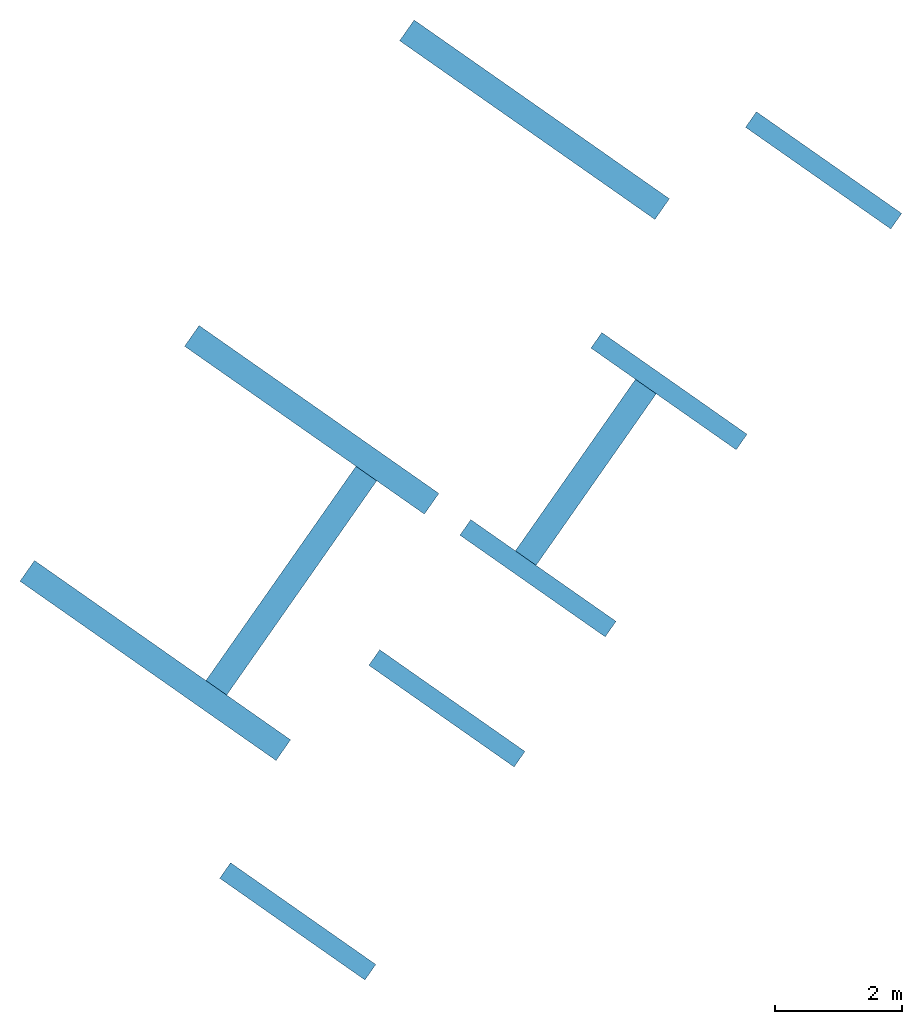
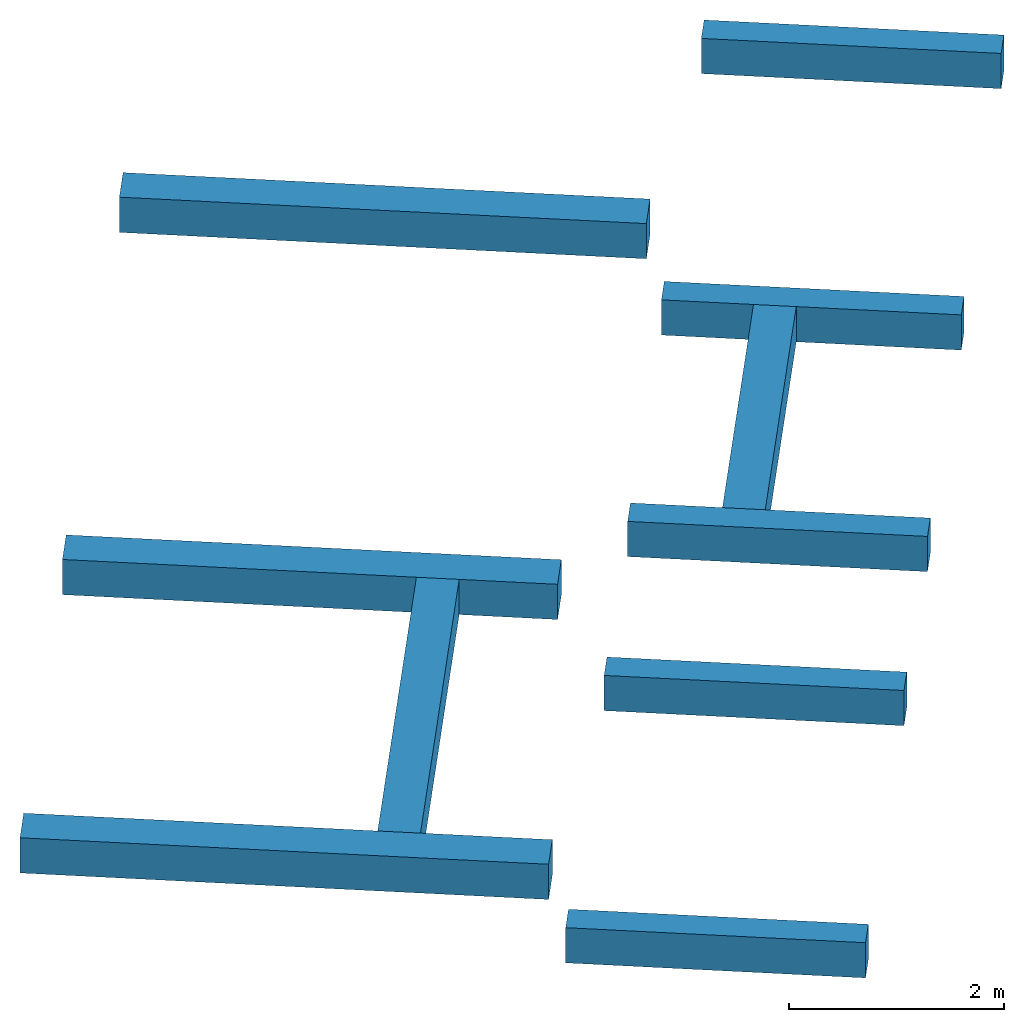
# One storey: 10 beams.
"""IFC2X3 building model written with IfcOpenShell, lengths in metres."""

from ifc_helpers import new_model, entity, si_unit, converted_unit, derived_unit, direction, frame, frame_2d, origin, place, context, subcontext, project, spatial, rectangle, extrude, type_object, element, save


model = new_model("IFC2X3")

# Units and contexts
model_context = context("Model", 3, precision=1e-05, world=origin(), true_north=direction((6.123031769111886e-17, 1.0)))
body_context = subcontext(model_context, "Body", "Model", "MODEL_VIEW")
ifc_project = project(units=[si_unit("LENGTHUNIT", "METRE"), si_unit("AREAUNIT", "SQUARE_METRE"), si_unit("VOLUMEUNIT", "CUBIC_METRE"), converted_unit("PLANEANGLEUNIT", "DEGREE", entity("IfcPlaneAngleMeasure", 0.017453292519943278), si_unit("PLANEANGLEUNIT", "RADIAN"), dimensions=[0, 0, 0, 0, 0, 0, 0]), si_unit("MASSUNIT", "GRAM", prefix="KILO"), derived_unit("MASSDENSITYUNIT", [(si_unit("MASSUNIT", "GRAM", prefix="KILO"), 1), (si_unit("LENGTHUNIT", "METRE"), -3)]), derived_unit("IONCONCENTRATIONUNIT", [(si_unit("MASSUNIT", "GRAM", prefix="KILO"), 1), (si_unit("LENGTHUNIT", "METRE"), -3)]), derived_unit("MOMENTOFINERTIAUNIT", [(si_unit("LENGTHUNIT", "METRE"), 4)]), si_unit("TIMEUNIT", "SECOND"), si_unit("FREQUENCYUNIT", "HERTZ"), si_unit("THERMODYNAMICTEMPERATUREUNIT", "DEGREE_CELSIUS"), derived_unit("THERMALTRANSMITTANCEUNIT", [(si_unit("MASSUNIT", "GRAM", prefix="KILO"), 1), (si_unit("THERMODYNAMICTEMPERATUREUNIT", "KELVIN"), -1), (si_unit("TIMEUNIT", "SECOND"), -3)]), derived_unit("THERMALCONDUCTANCEUNIT", [(si_unit("MASSUNIT", "GRAM", prefix="KILO"), 1), (si_unit("THERMODYNAMICTEMPERATUREUNIT", "KELVIN"), -1), (si_unit("TIMEUNIT", "SECOND"), -3), (si_unit("LENGTHUNIT", "METRE"), 1)]), derived_unit("VOLUMETRICFLOWRATEUNIT", [(si_unit("LENGTHUNIT", "METRE", prefix="DECI"), 3), (si_unit("TIMEUNIT", "SECOND"), -1)]), derived_unit("MASSFLOWRATEUNIT", [(si_unit("MASSUNIT", "GRAM", prefix="KILO"), 1), (si_unit("TIMEUNIT", "SECOND"), -1)]), derived_unit("ROTATIONALFREQUENCYUNIT", [(si_unit("TIMEUNIT", "SECOND"), -1)]), si_unit("ELECTRICCURRENTUNIT", "AMPERE"), si_unit("ELECTRICVOLTAGEUNIT", "VOLT"), si_unit("POWERUNIT", "WATT"), si_unit("FORCEUNIT", "NEWTON", prefix="KILO"), si_unit("ILLUMINANCEUNIT", "LUX"), si_unit("LUMINOUSFLUXUNIT", "LUMEN"), si_unit("LUMINOUSINTENSITYUNIT", "CANDELA"), si_unit("ENERGYUNIT", "JOULE"), derived_unit("USERDEFINED", [(si_unit("MASSUNIT", "GRAM", prefix="KILO"), -1), (si_unit("LENGTHUNIT", "METRE"), -2), (si_unit("TIMEUNIT", "SECOND"), 3), (si_unit("LUMINOUSFLUXUNIT", "LUMEN"), 1)]), derived_unit("USERDEFINED", [(si_unit("MASSUNIT", "GRAM", prefix="KILO"), 1), (si_unit("TIMEUNIT", "SECOND"), -3), (si_unit("LENGTHUNIT", "METRE"), 3), (si_unit("ELECTRICCURRENTUNIT", "AMPERE"), -2)]), derived_unit("SOUNDPOWERUNIT", [(si_unit("MASSUNIT", "GRAM", prefix="KILO"), 1), (si_unit("TIMEUNIT", "SECOND"), -3), (si_unit("LENGTHUNIT", "METRE"), 2)]), derived_unit("SOUNDPRESSUREUNIT", [(si_unit("MASSUNIT", "GRAM", prefix="KILO"), 1), (si_unit("LENGTHUNIT", "METRE"), -1), (si_unit("TIMEUNIT", "SECOND"), -2)]), derived_unit("LINEARVELOCITYUNIT", [(si_unit("LENGTHUNIT", "METRE"), 1), (si_unit("TIMEUNIT", "SECOND"), -1)]), si_unit("PRESSUREUNIT", "PASCAL"), derived_unit("USERDEFINED", [(si_unit("MASSUNIT", "GRAM", prefix="KILO"), 1), (si_unit("LENGTHUNIT", "METRE"), -2), (si_unit("TIMEUNIT", "SECOND"), -2)]), derived_unit("LINEARFORCEUNIT", [(si_unit("MASSUNIT", "GRAM", prefix="KILO"), 1), (si_unit("TIMEUNIT", "SECOND"), -2)]), derived_unit("PLANARFORCEUNIT", [(si_unit("MASSUNIT", "GRAM", prefix="KILO"), 1), (si_unit("LENGTHUNIT", "METRE"), -1), (si_unit("TIMEUNIT", "SECOND"), -2)]), derived_unit("SPECIFICHEATCAPACITYUNIT", [(si_unit("THERMODYNAMICTEMPERATUREUNIT", "KELVIN"), -1), (si_unit("LENGTHUNIT", "METRE"), 2), (si_unit("TIMEUNIT", "SECOND"), -2)]), derived_unit("HEATFLUXDENSITYUNIT", [(si_unit("MASSUNIT", "GRAM", prefix="KILO"), 1), (si_unit("TIMEUNIT", "SECOND"), -3)]), derived_unit("HEATINGVALUEUNIT", [(si_unit("LENGTHUNIT", "METRE"), 2), (si_unit("TIMEUNIT", "SECOND"), -2)]), derived_unit("VAPORPERMEABILITYUNIT", [(si_unit("LENGTHUNIT", "METRE"), -1), (si_unit("TIMEUNIT", "SECOND"), 1)]), derived_unit("DYNAMICVISCOSITYUNIT", [(si_unit("MASSUNIT", "GRAM", prefix="KILO"), 1), (si_unit("TIMEUNIT", "SECOND"), -1), (si_unit("LENGTHUNIT", "METRE"), -1)]), derived_unit("THERMALEXPANSIONCOEFFICIENTUNIT", [(si_unit("THERMODYNAMICTEMPERATUREUNIT", "KELVIN"), -1)]), derived_unit("MODULUSOFELASTICITYUNIT", [(si_unit("MASSUNIT", "GRAM", prefix="KILO"), 1), (si_unit("LENGTHUNIT", "METRE"), -1), (si_unit("TIMEUNIT", "SECOND"), -2)]), derived_unit("ISOTHERMALMOISTURECAPACITYUNIT", [(si_unit("MASSUNIT", "GRAM", prefix="KILO"), -1), (si_unit("LENGTHUNIT", "METRE"), 3)]), derived_unit("MOISTUREDIFFUSIVITYUNIT", [(si_unit("TIMEUNIT", "SECOND"), -1), (si_unit("LENGTHUNIT", "METRE"), 2)]), derived_unit("MASSPERLENGTHUNIT", [(si_unit("MASSUNIT", "GRAM", prefix="KILO"), 1), (si_unit("LENGTHUNIT", "METRE"), -1)]), derived_unit("THERMALRESISTANCEUNIT", [(si_unit("MASSUNIT", "GRAM", prefix="KILO"), -1), (si_unit("TIMEUNIT", "SECOND"), 3), (si_unit("THERMODYNAMICTEMPERATUREUNIT", "KELVIN"), 1)]), derived_unit("ACCELERATIONUNIT", [(si_unit("LENGTHUNIT", "METRE"), 1), (si_unit("TIMEUNIT", "SECOND"), -2)]), derived_unit("ANGULARVELOCITYUNIT", [(si_unit("TIMEUNIT", "SECOND"), -1), (si_unit("PLANEANGLEUNIT", "RADIAN"), 1)]), derived_unit("LINEARSTIFFNESSUNIT", [(si_unit("MASSUNIT", "GRAM", prefix="KILO"), 1), (si_unit("TIMEUNIT", "SECOND"), -2)]), derived_unit("WARPINGCONSTANTUNIT", [(si_unit("LENGTHUNIT", "METRE"), 6)]), derived_unit("LINEARMOMENTUNIT", [(si_unit("MASSUNIT", "GRAM", prefix="KILO"), 1), (si_unit("LENGTHUNIT", "METRE"), 1), (si_unit("TIMEUNIT", "SECOND"), -2)]), derived_unit("TORQUEUNIT", [(si_unit("MASSUNIT", "GRAM", prefix="KILO"), 1), (si_unit("LENGTHUNIT", "METRE"), 2), (si_unit("TIMEUNIT", "SECOND"), -2)])], contexts=[model_context])

# Site, building, storey
site_placement = place(None, origin())
site = spatial("IfcSite", under=ifc_project, at=site_placement, Name="Default", CompositionType="ELEMENT")
building_placement = place(site_placement, origin())
building = spatial("IfcBuilding", under=site, at=building_placement, CompositionType="ELEMENT")
storey_placement = place(building_placement, frame((0.0, 0.0, 95.94)))
storey = spatial("IfcBuildingStorey", under=building, at=storey_placement, Name="PB_", CompositionType="ELEMENT", Elevation=95.94)

# Beams
beam_type_1 = type_object("IfcBeamType", Name="Hormigón-Viga rectangular:300 x 400mm", PredefinedType="NOTDEFINED")
beam_1_placement = place(storey_placement, frame((6.508788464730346, -5.809673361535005, 0.5800000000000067), z_axis=(0.0, 0.0, 1.0), x_axis=(-0.8191520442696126, 0.5735764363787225, 0.0)))
element("IfcBeam", 1, at=beam_1_placement, inside=storey, type_object=beam_type_1, Name="Hormigón-Viga rectangular:300 x 400mm", ObjectType="Hormigón-Viga rectangular:300 x 400mm", context=body_context, shape_type="SweptSolid", body=[
    extrude(rectangle(XDim=0.3999999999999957, YDim=0.30000000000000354, at=frame_2d((8.659739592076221e-15, 7.494005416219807e-16), x_axis=(1.0, 0.0))), frame((-0.012549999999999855, 0.0, -0.1999999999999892), z_axis=(1.0, 0.0, 0.0), x_axis=(0.0, 0.0, -1.0)), (0.0, 0.0, 1.0), 2.8023999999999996),
])
beam_2_placement = place(storey_placement, frame((8.866169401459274, -2.4429844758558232, 0.5800000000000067), z_axis=(0.0, 0.0, 1.0), x_axis=(-0.8191520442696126, 0.5735764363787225, 0.0)))
element("IfcBeam", 2, at=beam_2_placement, inside=storey, type_object=beam_type_1, Name="Hormigón-Viga rectangular:300 x 400mm", ObjectType="Hormigón-Viga rectangular:300 x 400mm", context=body_context, shape_type="SweptSolid", body=[
    extrude(rectangle(XDim=0.3999999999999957, YDim=0.30000000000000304, at=frame_2d((8.659739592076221e-15, 1.1102230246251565e-16), x_axis=(1.0, 0.0))), frame((-0.012550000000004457, 0.0, -0.1999999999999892), z_axis=(1.0, 0.0, 0.0), x_axis=(0.0, 0.0, -1.0)), (0.0, 0.0, 1.0), 2.8024),
])
beam_3_placement = place(storey_placement, frame((10.305864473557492, -0.3868868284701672, 0.5800000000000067), z_axis=(0.0, 0.0, 1.0), x_axis=(-0.8191520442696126, 0.5735764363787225, 0.0)))
element("IfcBeam", 3, at=beam_3_placement, inside=storey, type_object=beam_type_1, Name="Hormigón-Viga rectangular:300 x 400mm", ObjectType="Hormigón-Viga rectangular:300 x 400mm", context=body_context, shape_type="SweptSolid", body=[
    extrude(rectangle(XDim=0.3999999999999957, YDim=0.3000000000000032, at=frame_2d((8.659739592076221e-15, -4.163336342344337e-17), x_axis=(1.0, 0.0))), frame((-0.012550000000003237, 0.0, -0.1999999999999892), z_axis=(1.0, 0.0, 0.0), x_axis=(0.0, 0.0, -1.0)), (0.0, 0.0, 1.0), 2.8024),
])
beam_4_placement = place(storey_placement, frame((12.376475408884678, 2.5702520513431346, 0.5800000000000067), z_axis=(0.0, 0.0, 1.0), x_axis=(-0.8191520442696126, 0.5735764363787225, 0.0)))
element("IfcBeam", 4, at=beam_4_placement, inside=storey, type_object=beam_type_1, Name="Hormigón-Viga rectangular:300 x 400mm", ObjectType="Hormigón-Viga rectangular:300 x 400mm", context=body_context, shape_type="SweptSolid", body=[
    extrude(rectangle(XDim=0.3999999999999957, YDim=0.3000000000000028, at=frame_2d((8.659739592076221e-15, 6.661338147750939e-16), x_axis=(1.0, 0.0))), frame((-0.012550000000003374, 0.0, -0.1999999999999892), z_axis=(1.0, 0.0, 0.0), x_axis=(0.0, 0.0, -1.0)), (0.0, 0.0, 1.0), 2.802400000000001),
])
beam_5_placement = place(storey_placement, frame((14.819911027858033, 6.059839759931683, 0.5800000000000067), z_axis=(0.0, 0.0, 1.0), x_axis=(-0.8191520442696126, 0.5735764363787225, 0.0)))
element("IfcBeam", 5, at=beam_5_placement, inside=storey, type_object=beam_type_1, Name="Hormigón-Viga rectangular:300 x 400mm", ObjectType="Hormigón-Viga rectangular:300 x 400mm", context=body_context, shape_type="SweptSolid", body=[
    extrude(rectangle(XDim=0.3999999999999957, YDim=0.30000000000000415, at=frame_2d((8.659739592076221e-15, 4.440892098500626e-16), x_axis=(1.0, 0.0))), frame((-0.01255000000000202, 0.0, -0.1999999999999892), z_axis=(1.0, 0.0, 0.0), x_axis=(0.0, 0.0, -1.0)), (0.0, 0.0, 1.0), 2.8024000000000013),
])
beam_type_2 = type_object("IfcBeamType", Name="Hormigón-Viga rectangular:400 x 400mm", PredefinedType="NOTDEFINED")
beam_6_placement = place(storey_placement, frame((8.88874363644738, 0.6053918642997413, 0.5800000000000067), z_axis=(0.0, 0.0, 1.0), x_axis=(0.5735764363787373, 0.8191520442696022, 0.0)))
element("IfcBeam", 6, at=beam_6_placement, inside=storey, type_object=beam_type_2, Name="Hormigón-Viga rectangular:400 x 400mm", ObjectType="Hormigón-Viga rectangular:400 x 400mm", context=body_context, shape_type="SweptSolid", body=[
    extrude(rectangle(XDim=0.3999999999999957, YDim=0.4000000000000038, at=frame_2d((-8.659739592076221e-15, -6.106226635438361e-16), x_axis=(1.0, 0.0))), frame((0.14999999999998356, 0.0, -0.2000000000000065), z_axis=(1.0, 0.0, 0.0), x_axis=(0.0, 0.0, -1.0)), (0.0, 0.0, 1.0), 3.310000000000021),
])
beam_7_placement = place(storey_placement, frame((11.120695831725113, 6.251236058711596, -0.14000000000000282), z_axis=(0.0, 0.0, 1.0), x_axis=(-0.8191520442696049, 0.5735764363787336, 0.0)))
element("IfcBeam", 7, at=beam_7_placement, inside=storey, type_object=beam_type_2, Name="Hormigón-Viga rectangular:400 x 400mm", ObjectType="Hormigón-Viga rectangular:400 x 400mm", context=body_context, shape_type="SweptSolid", body=[
    extrude(rectangle(XDim=0.3999999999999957, YDim=0.4000000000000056, at=frame_2d((-8.659739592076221e-15, -6.245004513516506e-16), x_axis=(1.0, 0.0))), frame((-0.01269999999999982, 0.0, -0.2000000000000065), z_axis=(1.0, 0.0, 0.0), x_axis=(0.0, 0.0, -1.0)), (0.0, 0.0, 1.0), 4.925400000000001),
])
beam_8_placement = place(storey_placement, frame((1.1063460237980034, 0.5192691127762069, -0.14000000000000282), z_axis=(0.0, 0.0, 1.0), x_axis=(0.8191520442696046, -0.5735764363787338, 0.0)))
element("IfcBeam", 8, at=beam_8_placement, inside=storey, type_object=beam_type_2, Name="Hormigón-Viga rectangular:400 x 400mm", ObjectType="Hormigón-Viga rectangular:400 x 400mm", context=body_context, shape_type="SweptSolid", body=[
    extrude(rectangle(XDim=0.3999999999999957, YDim=0.40000000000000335, at=frame_2d((8.659739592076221e-15, -1.249000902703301e-16), x_axis=(1.0, 0.0))), frame((-0.012422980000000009, 0.0, -0.1999999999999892), z_axis=(1.0, 0.0, 0.0), x_axis=(0.0, 0.0, -1.0)), (0.0, 0.0, 1.0), 4.940400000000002),
])
beam_9_placement = place(storey_placement, frame((6.5705433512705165, 2.228613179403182, -0.14000000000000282), z_axis=(0.0, 0.0, 1.0), x_axis=(-0.5735764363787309, -0.8191520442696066, 0.0)))
element("IfcBeam", 9, at=beam_9_placement, inside=storey, type_object=beam_type_2, Name="Hormigón-Viga rectangular:400 x 400mm", ObjectType="Hormigón-Viga rectangular:400 x 400mm", context=body_context, shape_type="SweptSolid", body=[
    extrude(rectangle(XDim=0.3999999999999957, YDim=0.40000000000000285, at=frame_2d((-8.673617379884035e-15, 1.5265566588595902e-16), x_axis=(1.0, 0.0))), frame((0.19999999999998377, 0.0, -0.2000000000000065), z_axis=(1.0, 0.0, 0.0), x_axis=(0.0, 0.0, -1.0)), (0.0, 0.0, 1.0), 4.1343475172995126),
])
beam_10_placement = place(storey_placement, frame((7.477578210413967, 1.5935005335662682, -0.14000000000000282), z_axis=(0.0, 0.0, 1.0), x_axis=(-0.8191520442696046, 0.5735764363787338, 0.0)))
element("IfcBeam", 10, at=beam_10_placement, inside=storey, type_object=beam_type_2, Name="Hormigón-Viga rectangular:400 x 400mm", ObjectType="Hormigón-Viga rectangular:400 x 400mm", context=body_context, shape_type="SweptSolid", body=[
    extrude(rectangle(XDim=0.3999999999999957, YDim=0.4000000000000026, at=frame_2d((8.659739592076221e-15, 8.604228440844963e-16), x_axis=(1.0, 0.0))), frame((-0.01227297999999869, 0.0, -0.1999999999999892), z_axis=(1.0, 0.0, 0.0), x_axis=(0.0, 0.0, -1.0)), (0.0, 0.0, 1.0), 4.6274000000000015),
])

save(model, "model.ifc")
